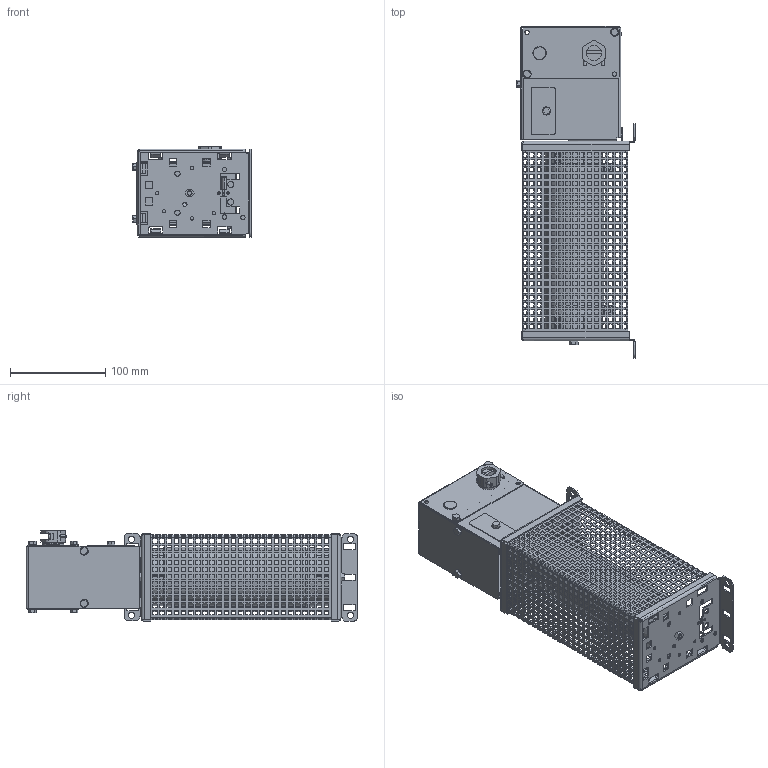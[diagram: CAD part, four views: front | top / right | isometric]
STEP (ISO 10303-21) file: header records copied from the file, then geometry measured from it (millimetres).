
FILE_DESCRIPTION (( 'STEP AP203' ), '1' );
FILE_NAME ('BAR250-33-Step.STEP', '2011-09-13T07:42:28', ( 'Frizlen' ), ( 'Frizlen' ), 'SwSTEP 2.0', 'SolidWorks 2010', '' );
FILE_SCHEMA (( 'CONFIG_CONTROL_DESIGN' ));
Products named in the file (21): Seitenteil FZEvorne; FZ200x60montiert; Rohr x60_200x60; Zementmasse x60; Gewindestab-M5-verzinkt_220; Vierkantmutter DIN 562-M5; ISO 1207 - M5 x 16 --- 16N_ISO 1207 - M5 x 16 --- 16N; Abdeckung-FZE200x65; 1103074-Klemmenkasten SEW 2008; 1103075-Klemmenkasten SEW Verschraubungsblech-ohne ; 1103075-Verschraubungsblech-PG16-M12x1,5; Druckschraube PG16; Blindstopfen; Schelle-X65; 10784-Zentrierscheibe-x60; Seitenteil FZE hinten; Sechskantmutter DIN 934-M5; 110308-Klemmenkasten C Deckel; Typenschild-50x25; Gewindefurchschraube SK M4x6; BAR250-33-Step
Assembly tree (35 placements, depth 3):
  BAR250-33-Step
    Gewindefurchschraube SK M4x6  x9
    1103075-Klemmenkasten SEW Verschraubungsblech-ohne 
    Typenschild-50x25
    FZ200x60montiert
      Vierkantmutter DIN 562-M5  x2
      Schelle-X65  x2
      Sechskantmutter DIN 934-M5  x2
      10784-Zentrierscheibe-x60  x2
      ISO 1207 - M5 x 16 --- 16N_ISO 1207 - M5 x 16 --- 16N  x2
      Gewindestab-M5-verzinkt_220
      Rohr x60_200x60
      Zementmasse x60
    Seitenteil FZE hinten
    1103074-Klemmenkasten SEW 2008
    1103075-Verschraubungsblech-PG16-M12x1,5
    Seitenteil FZEvorne
    Abdeckung-FZE200x65
    Blindstopfen
    Sechskantmutter DIN 934-M5  x2
    110308-Klemmenkasten C Deckel
    Druckschraube PG16
Bounding box: 123.98 x 348.53 x 95.19 mm (x, y, z)
Volume: 452190.5 mm3; surface area: 419404.7 mm2
Topology: 34 solids, 34 shells, 6191 faces, 18058 edges, 11748 vertices
Faces by surface type: plane 5581, cylinder 491, torus 56, bspline 32, cone 31
Full cylindrical faces by diameter (mm): 60 x2
Entity records: 200686 total; most frequent: CARTESIAN_POINT 35683, ORIENTED_EDGE 34750, DIRECTION 30209, EDGE_CURVE 17375, LINE 16005, VECTOR 16005, VERTEX_POINT 11334, EDGE_LOOP 8221
